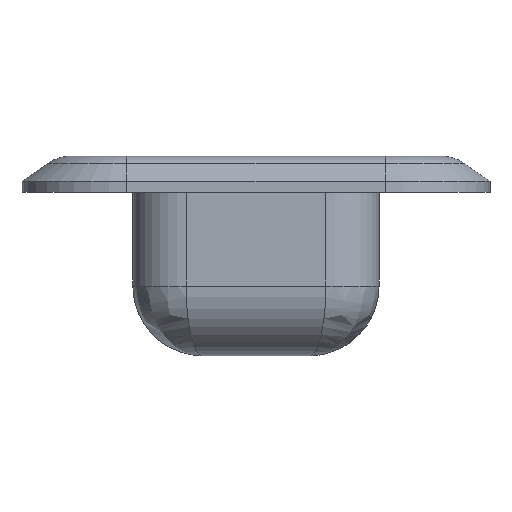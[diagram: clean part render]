
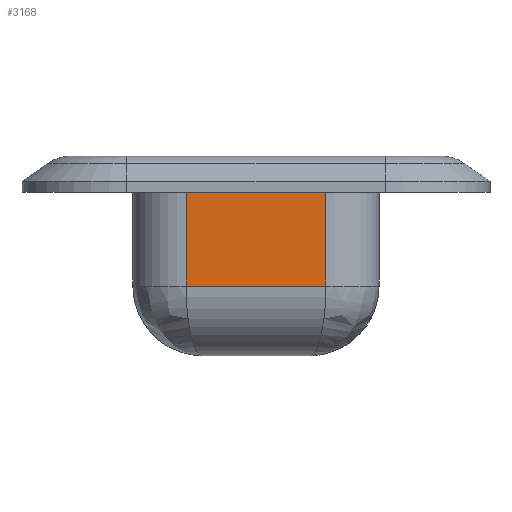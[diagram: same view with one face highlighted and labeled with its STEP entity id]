
A CAD part, left-side view. The second image highlights one B-rep face of the part: STEP entity #3168.
In plain terms, the highlighted planar face has unit normal (-1, 0, 0).
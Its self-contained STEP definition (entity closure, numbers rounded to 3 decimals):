
#70 = LINE ( 'NONE', #3003, #72 ) ;
#72 = VECTOR ( 'NONE', #3001, 1000. ) ;
#268 = LINE ( 'NONE', #573, #274 ) ;
#272 = LINE ( 'NONE', #572, #278 ) ;
#273 = LINE ( 'NONE', #577, #276 ) ;
#274 = VECTOR ( 'NONE', #570, 1000. ) ;
#276 = VECTOR ( 'NONE', #578, 1000. ) ;
#278 = VECTOR ( 'NONE', #579, 1000. ) ;
#371 = CARTESIAN_POINT ( 'NONE',  ( -18.81, -5., -6.7 ) ) ;
#383 = CARTESIAN_POINT ( 'NONE',  ( -18.81, 5., -6.7 ) ) ;
#393 = CARTESIAN_POINT ( 'NONE',  ( -18.81, 5., 0. ) ) ;
#395 = CARTESIAN_POINT ( 'NONE',  ( -18.81, -5., 0. ) ) ;
#570 = DIRECTION ( 'NONE',  ( 0., 0., 1. ) ) ;
#572 = CARTESIAN_POINT ( 'NONE',  ( -18.81, -5., -11.7 ) ) ;
#573 = CARTESIAN_POINT ( 'NONE',  ( -18.81, 5., -11.7 ) ) ;
#577 = CARTESIAN_POINT ( 'NONE',  ( -18.81, -5., -6.7 ) ) ;
#578 = DIRECTION ( 'NONE',  ( 0., -1., 0. ) ) ;
#579 = DIRECTION ( 'NONE',  ( 0., 0., 1. ) ) ;
#673 = FACE_OUTER_BOUND ( 'NONE', #3430, .T. ) ;
#969 = PLANE ( 'NONE',  #2447 ) ;
#971 = CARTESIAN_POINT ( 'NONE',  ( -18.81, -5., -11.7 ) ) ;
#976 = DIRECTION ( 'NONE',  ( 1., 0., 0. ) ) ;
#977 = DIRECTION ( 'NONE',  ( 0., 0., -1. ) ) ;
#1432 = ORIENTED_EDGE ( 'NONE', *, *, #3122, .T. ) ;
#1436 = ORIENTED_EDGE ( 'NONE', *, *, #2491, .F. ) ;
#1460 = ORIENTED_EDGE ( 'NONE', *, *, #3120, .F. ) ;
#1461 = ORIENTED_EDGE ( 'NONE', *, *, #3121, .T. ) ;
#2447 = AXIS2_PLACEMENT_3D ( 'NONE', #971, #976, #977 ) ;
#2491 = EDGE_CURVE ( 'NONE', #2796, #2798, #70, .T. ) ;
#2770 = VERTEX_POINT ( 'NONE', #371 ) ;
#2782 = VERTEX_POINT ( 'NONE', #383 ) ;
#2796 = VERTEX_POINT ( 'NONE', #393 ) ;
#2798 = VERTEX_POINT ( 'NONE', #395 ) ;
#3001 = DIRECTION ( 'NONE',  ( 0., -1., 0. ) ) ;
#3003 = CARTESIAN_POINT ( 'NONE',  ( -18.81, 5., 0. ) ) ;
#3120 = EDGE_CURVE ( 'NONE', #2782, #2796, #268, .T. ) ;
#3121 = EDGE_CURVE ( 'NONE', #2782, #2770, #273, .T. ) ;
#3122 = EDGE_CURVE ( 'NONE', #2770, #2798, #272, .T. ) ;
#3168 = ADVANCED_FACE ( 'NONE', ( #673 ), #969, .F. ) ;
#3430 = EDGE_LOOP ( 'NONE', ( #1460, #1461, #1432, #1436 ) ) ;
